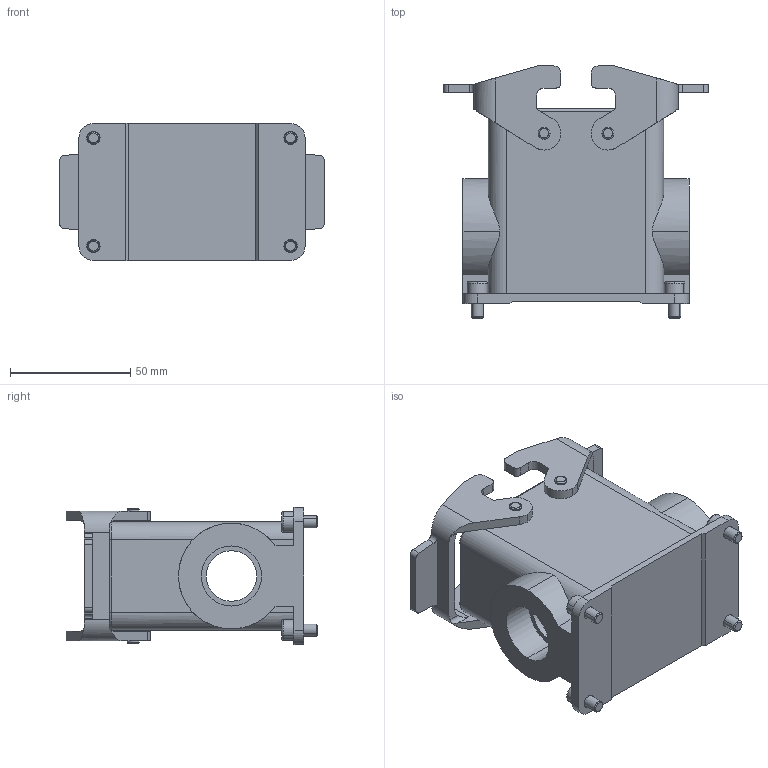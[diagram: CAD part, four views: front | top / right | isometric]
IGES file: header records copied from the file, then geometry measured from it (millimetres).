
Start section: 3D InterOp IGES (Version 25 0 2), Spatial Corp. Copyright (c) 1999-2007.
Global section: file name: E2711_81_10B.igs; native system: Spatial Corp.; preprocessor: 3D InterOp GENERIC/IGES 3.0; author: Noname; organization: Noname; date: 20160920.090139; units: metre
Bounding box: 110 x 104.8 x 57 mm (x, y, z)
Volume: 143053.9 mm3; surface area: 62036.9 mm2
Topology: 5 solids, 5 shells, 337 faces, 886 edges, 580 vertices
Faces by surface type: plane 157, cylinder 140, torus 32, cone 8
